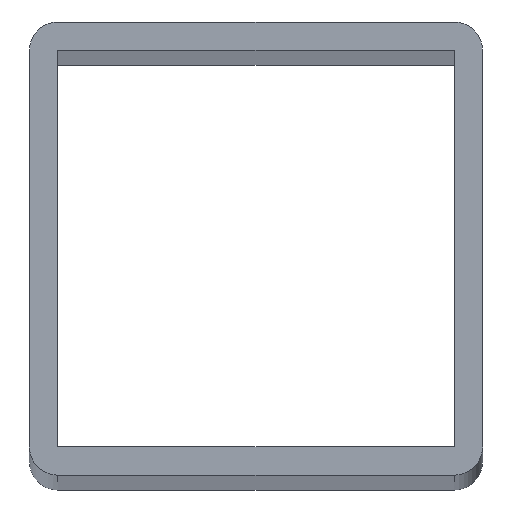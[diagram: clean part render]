
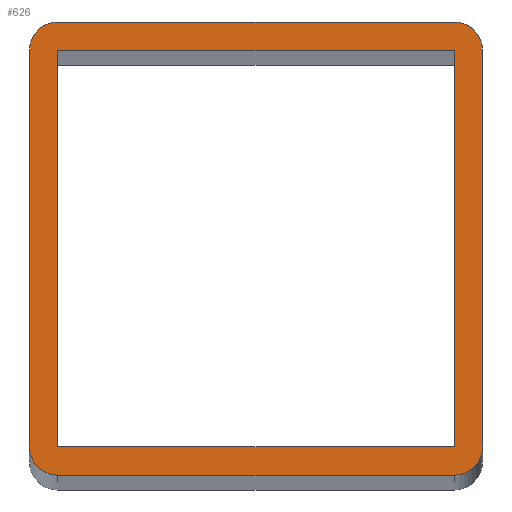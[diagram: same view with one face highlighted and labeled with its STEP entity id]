
A CAD part, top view. The second image highlights one B-rep face of the part: STEP entity #626.
In plain terms, the highlighted planar face has unit normal (0, 0, 1).
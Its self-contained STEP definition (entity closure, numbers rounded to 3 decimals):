
#291=CARTESIAN_POINT('',(-35.,35.,750.));
#292=DIRECTION('',(0.,0.,1.));
#293=DIRECTION('',(0.,1.,0.));
#294=AXIS2_PLACEMENT_3D('',#291,#292,#293);
#299=DIRECTION('',(-1.,0.,0.));
#300=VECTOR('',#299,70.);
#301=CARTESIAN_POINT('',(35.,40.,750.));
#302=LINE('',#301,#300);
#306=CARTESIAN_POINT('',(35.,35.,750.));
#307=DIRECTION('',(0.,0.,1.));
#308=DIRECTION('',(1.,0.,0.));
#309=AXIS2_PLACEMENT_3D('',#306,#307,#308);
#314=DIRECTION('',(0.,1.,0.));
#315=VECTOR('',#314,70.);
#316=CARTESIAN_POINT('',(40.,-35.,750.));
#317=LINE('',#316,#315);
#321=CARTESIAN_POINT('',(35.,-35.,750.));
#322=DIRECTION('',(0.,0.,1.));
#323=DIRECTION('',(0.,-1.,0.));
#324=AXIS2_PLACEMENT_3D('',#321,#322,#323);
#329=DIRECTION('',(1.,0.,0.));
#330=VECTOR('',#329,70.);
#331=CARTESIAN_POINT('',(-35.,-40.,750.));
#332=LINE('',#331,#330);
#336=CARTESIAN_POINT('',(-35.,-35.,750.));
#337=DIRECTION('',(0.,0.,1.));
#338=DIRECTION('',(-1.,0.,0.));
#339=AXIS2_PLACEMENT_3D('',#336,#337,#338);
#344=DIRECTION('',(0.,-1.,0.));
#345=VECTOR('',#344,70.);
#346=CARTESIAN_POINT('',(-40.,35.,750.));
#347=LINE('',#346,#345);
#351=DIRECTION('',(1.,0.,0.));
#352=VECTOR('',#351,70.);
#353=CARTESIAN_POINT('',(-35.,35.,750.));
#354=LINE('',#353,#352);
#358=DIRECTION('',(0.,1.,0.));
#359=VECTOR('',#358,70.);
#360=CARTESIAN_POINT('',(-35.,-35.,750.));
#361=LINE('',#360,#359);
#365=DIRECTION('',(-1.,0.,0.));
#366=VECTOR('',#365,70.);
#367=CARTESIAN_POINT('',(35.,-35.,750.));
#368=LINE('',#367,#366);
#372=DIRECTION('',(0.,-1.,0.));
#373=VECTOR('',#372,70.);
#374=CARTESIAN_POINT('',(35.,35.,750.));
#375=LINE('',#374,#373);
#431=CARTESIAN_POINT('',(-35.,40.,750.));
#432=CARTESIAN_POINT('',(-40.,35.,750.));
#433=VERTEX_POINT('',#431);
#434=VERTEX_POINT('',#432);
#435=CARTESIAN_POINT('',(-40.,-35.,750.));
#436=VERTEX_POINT('',#435);
#437=CARTESIAN_POINT('',(-35.,-40.,750.));
#438=VERTEX_POINT('',#437);
#439=CARTESIAN_POINT('',(35.,-40.,750.));
#440=VERTEX_POINT('',#439);
#441=CARTESIAN_POINT('',(40.,-35.,750.));
#442=VERTEX_POINT('',#441);
#443=CARTESIAN_POINT('',(40.,35.,750.));
#444=VERTEX_POINT('',#443);
#445=CARTESIAN_POINT('',(35.,40.,750.));
#446=VERTEX_POINT('',#445);
#447=CARTESIAN_POINT('',(-35.,35.,750.));
#448=CARTESIAN_POINT('',(35.,35.,750.));
#449=VERTEX_POINT('',#447);
#450=VERTEX_POINT('',#448);
#451=CARTESIAN_POINT('',(35.,-35.,750.));
#452=VERTEX_POINT('',#451);
#453=CARTESIAN_POINT('',(-35.,-35.,750.));
#454=VERTEX_POINT('',#453);
#601=CARTESIAN_POINT('',(0.,0.,750.));
#602=DIRECTION('',(0.,0.,1.));
#603=DIRECTION('',(1.,0.,0.));
#604=AXIS2_PLACEMENT_3D('',#601,#602,#603);
#605=PLANE('',#604);
#606=ORIENTED_EDGE('',*,*,#497,.F.);
#607=ORIENTED_EDGE('',*,*,#512,.F.);
#608=ORIENTED_EDGE('',*,*,#526,.F.);
#609=ORIENTED_EDGE('',*,*,#540,.F.);
#610=ORIENTED_EDGE('',*,*,#554,.F.);
#611=ORIENTED_EDGE('',*,*,#568,.F.);
#612=ORIENTED_EDGE('',*,*,#582,.F.);
#613=ORIENTED_EDGE('',*,*,#595,.F.);
#614=EDGE_LOOP('',(#606,#607,#608,#609,#610,#611,#612,#613));
#615=FACE_OUTER_BOUND('',#614,.F.);
#617=ORIENTED_EDGE('',*,*,#616,.F.);
#619=ORIENTED_EDGE('',*,*,#618,.F.);
#621=ORIENTED_EDGE('',*,*,#620,.F.);
#623=ORIENTED_EDGE('',*,*,#622,.F.);
#624=EDGE_LOOP('',(#617,#619,#621,#623));
#625=FACE_BOUND('',#624,.F.);
#295=CIRCLE('',#294,5.);
#310=CIRCLE('',#309,5.);
#325=CIRCLE('',#324,5.);
#340=CIRCLE('',#339,5.);
#497=EDGE_CURVE('',#433,#434,#295,.T.);
#512=EDGE_CURVE('',#446,#433,#302,.T.);
#526=EDGE_CURVE('',#444,#446,#310,.T.);
#540=EDGE_CURVE('',#442,#444,#317,.T.);
#554=EDGE_CURVE('',#440,#442,#325,.T.);
#568=EDGE_CURVE('',#438,#440,#332,.T.);
#582=EDGE_CURVE('',#436,#438,#340,.T.);
#595=EDGE_CURVE('',#434,#436,#347,.T.);
#616=EDGE_CURVE('',#449,#450,#354,.T.);
#618=EDGE_CURVE('',#454,#449,#361,.T.);
#620=EDGE_CURVE('',#452,#454,#368,.T.);
#622=EDGE_CURVE('',#450,#452,#375,.T.);
#626=ADVANCED_FACE('',(#615,#625),#605,.T.);
